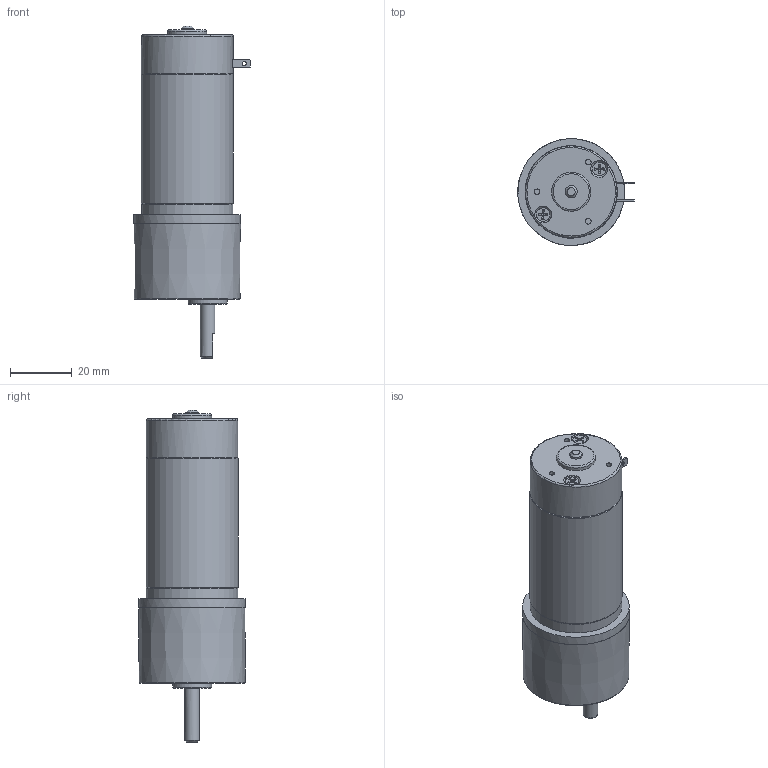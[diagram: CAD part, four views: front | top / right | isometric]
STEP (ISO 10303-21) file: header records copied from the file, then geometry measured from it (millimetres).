
FILE_DESCRIPTION((''),'2;1');
FILE_NAME('Z:\4_DC\새 폴더\RS3 SERIES\RS34ㅁㅁT(V,W).stp','2015-02-12T16:00:23',('kdhkdh'),(''),'Autodesk Inventor 2013','Autodesk Inventor 2013','');
FILE_SCHEMA(('AUTOMOTIVE_DESIGN { 1 0 10303 214 1 1 1 1 }'));
Length unit declared in the file: millimetre
Products named in the file (1): 부품2
Bounding box: 37.88 x 34.74 x 107.89 mm (x, y, z)
Volume: 67593.4 mm3; surface area: 11337.3 mm2
Topology: 1 solids, 6 shells, 205 faces, 522 edges, 343 vertices
Faces by surface type: plane 82, cylinder 56, cone 43, torus 24
Full cylindrical faces by diameter (mm): 1.362 x2, 1.8 x3, 2.156 x3, 2.5 x5, 2.6 x2, 2.7 x3, 4 x1, 4.4 x5, 4.76 x1, 5.5 x5, 12.7 x2, 29.8 x2, 30 x1, 34.7 x1
Entity records: 6256 total; most frequent: CARTESIAN_POINT 1725, DIRECTION 870, ORIENTED_EDGE 862, EDGE_CURVE 431, AXIS2_PLACEMENT_3D 377, VERTEX_POINT 314, EDGE_LOOP 295, FACE_OUTER_BOUND 205
